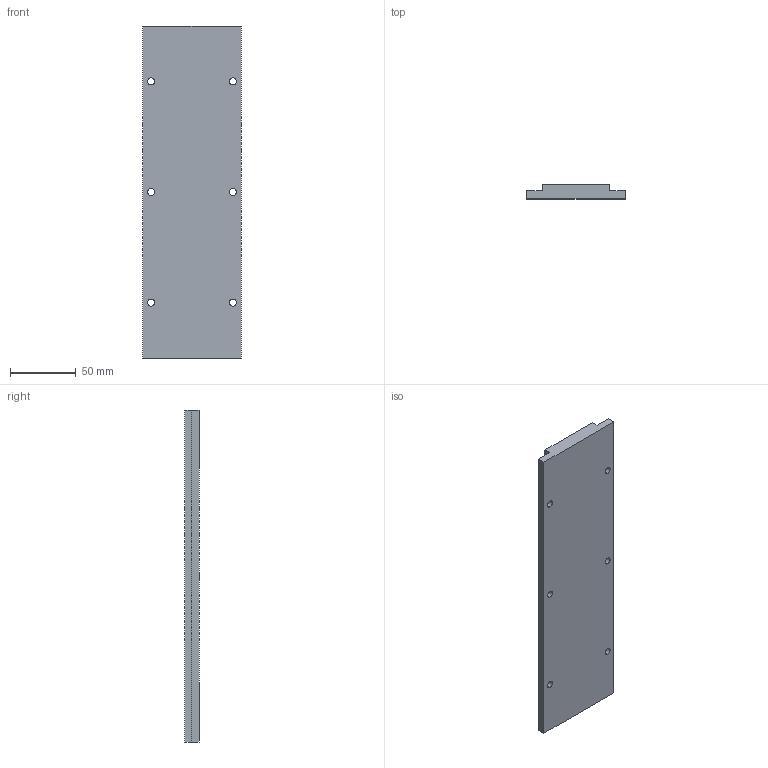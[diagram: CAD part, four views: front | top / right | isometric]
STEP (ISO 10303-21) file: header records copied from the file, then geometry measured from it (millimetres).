
FILE_DESCRIPTION (( 'STEP AP214' ), '1' );
FILE_NAME ('TLM-75-L252.STEP', '2022-05-12T08:03:43', ( 'Microsoft' ), ( 'Microsoft' ), 'SwSTEP 2.0', 'SolidWorks 2016', '' );
FILE_SCHEMA (( 'AUTOMOTIVE_DESIGN' ));
Length unit declared in the file: millimetre
Products named in the file (1): TLM-75-L252
Bounding box: 75 x 10.8 x 252 mm (x, y, z)
Volume: 174038.6 mm3; surface area: 45108.9 mm2
Topology: 1 solids, 1 shells, 40 faces, 96 edges, 64 vertices
Faces by surface type: cylinder 24, plane 16
Entity records: 1246 total; most frequent: DIRECTION 226, CARTESIAN_POINT 201, ORIENTED_EDGE 192, EDGE_CURVE 96, AXIS2_PLACEMENT_3D 89, VERTEX_POINT 64, EDGE_LOOP 58, CIRCLE 48
